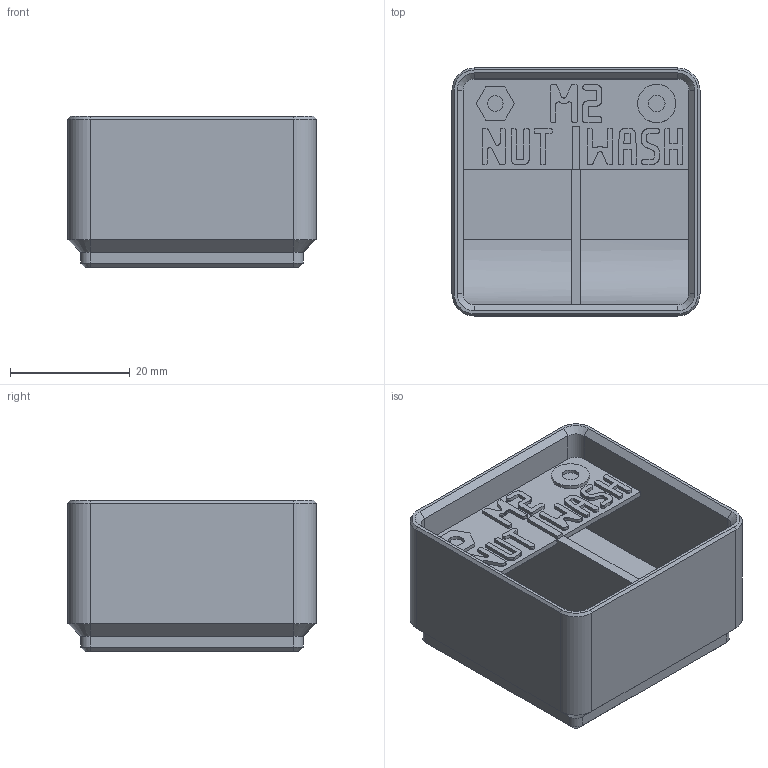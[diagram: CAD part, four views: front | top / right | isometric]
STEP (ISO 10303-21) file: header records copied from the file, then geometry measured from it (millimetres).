
FILE_DESCRIPTION(('Open CASCADE Model'),'2;1');
FILE_NAME('Open CASCADE Shape Model','2026-11-03T16:31:06',('Author'),( 'Open CASCADE'),'Open CASCADE STEP processor 8.0','build123d', 'Unknown');
FILE_SCHEMA(('AUTOMOTIVE_DESIGN { 1 0 10303 214 1 1 1 1 }'));
Products named in the file (1): COMPOUND
Bounding box: 41.5 x 41.5 x 25.4 mm (x, y, z)
Volume: 20566.2 mm3; surface area: 11037.5 mm2
Topology: 1 solids, 1 shells, 995 faces, 2891 edges, 1914 vertices
Faces by surface type: plane 962, cylinder 17, cone 16
Full cylindrical faces by diameter (mm): 2.6 x1, 2.8 x1, 6.4 x1
Entity records: 68063 total; most frequent: CARTESIAN_POINT 13861, DIRECTION 8756, LINE 6663, VECTOR 6663, ORIENTED_EDGE 5782, PCURVE 5782, DEFINITIONAL_REPRESENTATION 5782, EDGE_CURVE 2891
